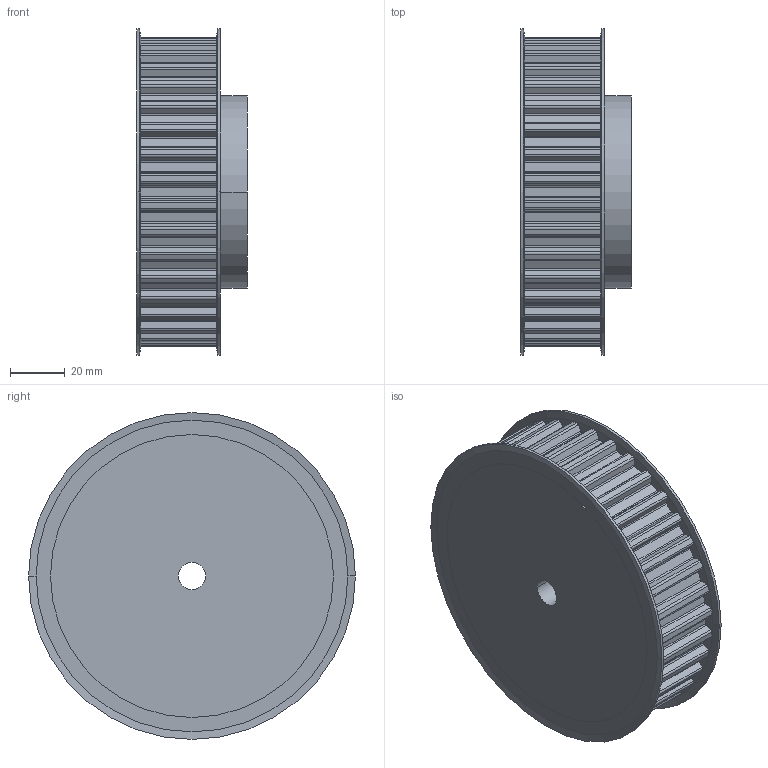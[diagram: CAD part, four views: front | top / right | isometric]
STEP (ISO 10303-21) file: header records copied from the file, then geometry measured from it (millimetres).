
FILE_DESCRIPTION( ( '' ), '1' );
FILE_NAME( 'C:/Users/Stangenbergd/Documents/CAD_Step/1/16433600.stp', '2021-10-19T08:55:53', ( '' ), ( '' ), ' ', ' ', ' ' );
FILE_SCHEMA( ( 'CONFIG_CONTROL_DESIGN' ) );
Length unit declared in the file: millimetre
Products named in the file (1): 1
Bounding box: 40.24 x 119 x 119 mm (x, y, z)
Volume: 317058.6 mm3; surface area: 43961.5 mm2
Topology: 1 solids, 1 shells, 315 faces, 916 edges, 608 vertices
Faces by surface type: cylinder 192, plane 115, cone 8
Entity records: 10606 total; most frequent: DIRECTION 1940, CARTESIAN_POINT 1840, ORIENTED_EDGE 1832, EDGE_CURVE 916, AXIS2_PLACEMENT_3D 708, VERTEX_POINT 608, LINE 524, VECTOR 524
